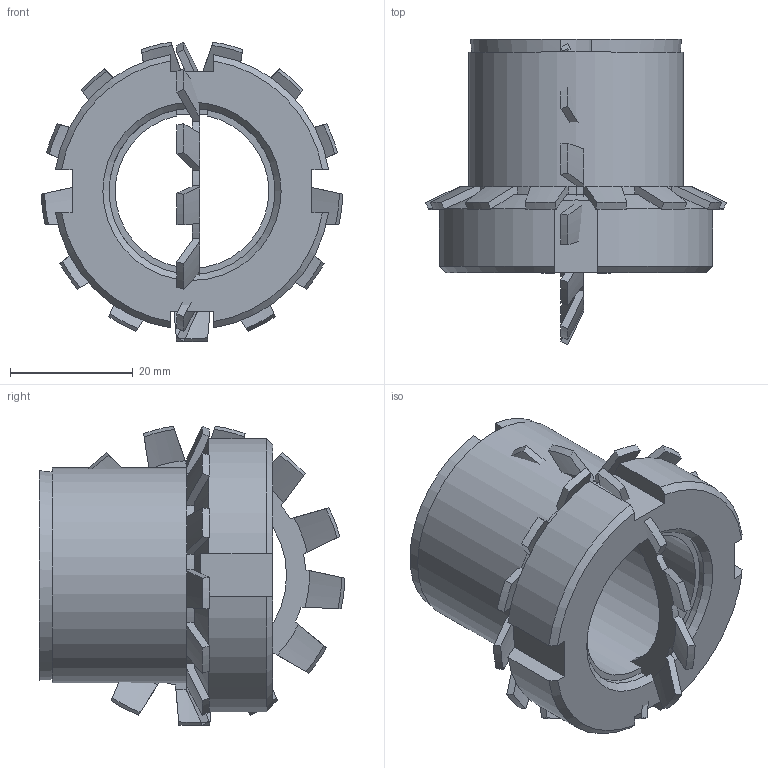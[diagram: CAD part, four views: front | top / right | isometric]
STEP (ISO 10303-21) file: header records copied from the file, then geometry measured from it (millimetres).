
FILE_DESCRIPTION( ( 'Unknown' ), '1' );
FILE_NAME( 'C:/Dokumente und Einstellungen/Sven/Desktop/homepage/cad - homepage/KBS55/KBS 55 - 25 x 35.stp', 'Unknown', ( 'Unknown' ), ( 'Unknown' ), 'XStep 1.0', 'Unknown', ' ' );
FILE_SCHEMA( ( 'automotive_design' ) );
Length unit declared in the file: millimetre
Products named in the file (3): Assem1; KBS 55 - 25 x 35; 08570066_locking_plate_din_5406_mb_6_2_14a
Bounding box: 48.99 x 49.75 x 48.75 mm (x, y, z)
Volume: 48710.5 mm3; surface area: 23632 mm2
Topology: 4 solids, 4 shells, 240 faces, 688 edges, 456 vertices
Faces by surface type: plane 104, cone 94, cylinder 42
Full cylindrical faces by diameter (mm): 27 x2, 35 x2
Entity records: 4268 total; most frequent: CARTESIAN_POINT 879, ORIENTED_EDGE 676, DIRECTION 640, EDGE_CURVE 338, AXIS2_PLACEMENT_3D 253, VERTEX_POINT 226, LINE 134, VECTOR 134
